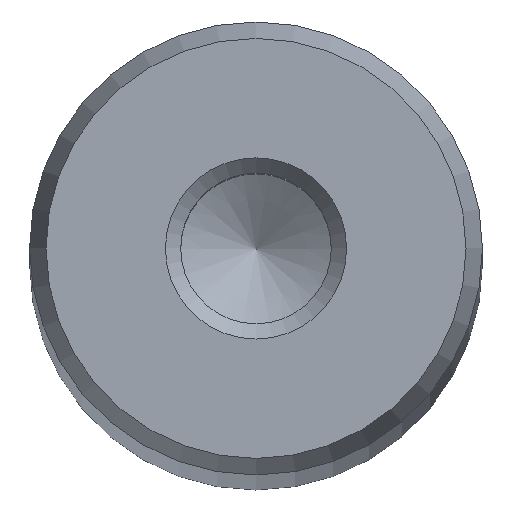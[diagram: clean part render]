
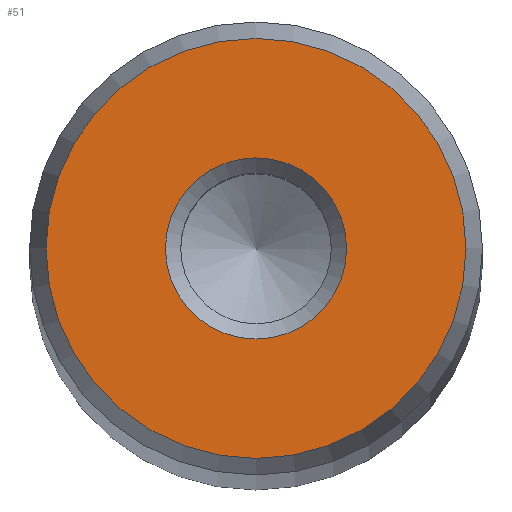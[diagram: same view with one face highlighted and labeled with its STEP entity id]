
A CAD part, top view. The second image highlights one B-rep face of the part: STEP entity #51.
In plain terms, the highlighted planar face has unit normal (0, 0, 1).
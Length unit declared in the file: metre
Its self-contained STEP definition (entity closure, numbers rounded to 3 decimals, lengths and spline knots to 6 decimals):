
#51 = ADVANCED_FACE( '', ( #108, #109 ), #110, .T. );
#108 = FACE_OUTER_BOUND( '', #167, .T. );
#109 = FACE_BOUND( '', #168, .T. );
#110 = PLANE( '', #169 );
#167 = EDGE_LOOP( '', ( #234 ) );
#168 = EDGE_LOOP( '', ( #235 ) );
#169 = AXIS2_PLACEMENT_3D( '', #236, #237, #238 );
#234 = ORIENTED_EDGE( '', *, *, #287, .T. );
#235 = ORIENTED_EDGE( '', *, *, #288, .T. );
#236 = CARTESIAN_POINT( '', ( 0., 0., 0.382 ) );
#237 = DIRECTION( '', ( 0., 0., 1. ) );
#238 = DIRECTION( '', ( 1., 0., 0. ) );
#287 = EDGE_CURVE( '', #320, #320, #321, .T. );
#288 = EDGE_CURVE( '', #322, #322, #323, .T. );
#320 = VERTEX_POINT( '', #357 );
#321 = CIRCLE( '', #358, 0.009272 );
#322 = VERTEX_POINT( '', #359 );
#323 = CIRCLE( '', #360, 0.004 );
#357 = CARTESIAN_POINT( '', ( 0.009272, 0., 0.382 ) );
#358 = AXIS2_PLACEMENT_3D( '', #394, #395, #396 );
#359 = CARTESIAN_POINT( '', ( 0.004, 0., 0.382 ) );
#360 = AXIS2_PLACEMENT_3D( '', #397, #398, #399 );
#394 = CARTESIAN_POINT( '', ( 0., 0., 0.382 ) );
#395 = DIRECTION( '', ( 0., 0., 1. ) );
#396 = DIRECTION( '', ( 1., 0., 0. ) );
#397 = CARTESIAN_POINT( '', ( 0., 0., 0.382 ) );
#398 = DIRECTION( '', ( 0., 0., -1. ) );
#399 = DIRECTION( '', ( 1., 0., 0. ) );
